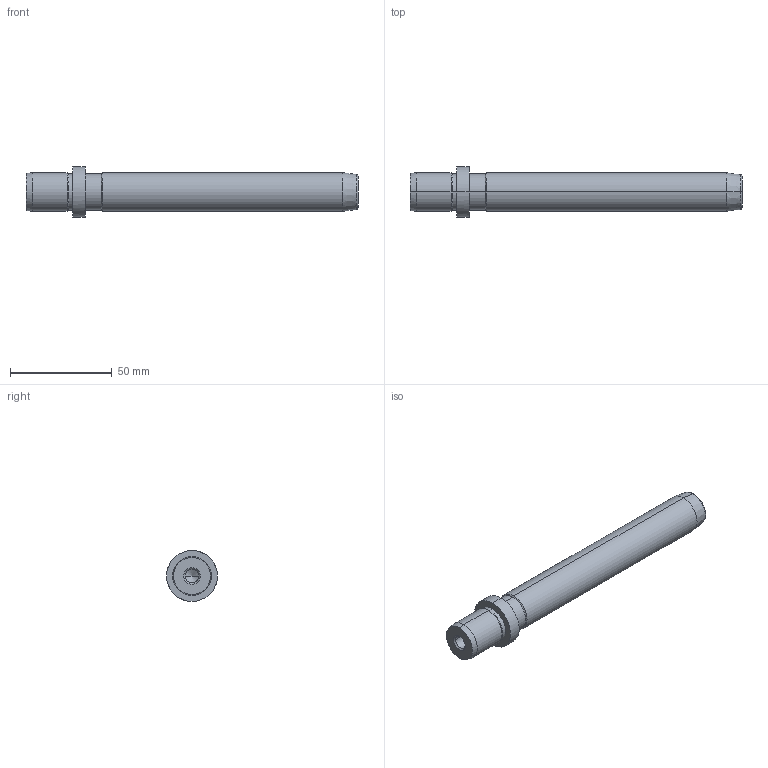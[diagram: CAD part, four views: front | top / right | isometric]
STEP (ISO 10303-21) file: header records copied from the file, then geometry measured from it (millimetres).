
FILE_DESCRIPTION(('CATIA V5 STEP Exchange'),'2;1');
FILE_NAME('C:\Users\Utente\Desktop\IO LAVORO\3D X SITO CF\X SITO\718\718-19x140.stp','2021-01-02T15:41:33+00:00',('none'),('none'),'CATIA Version 5 Release 20 GA (IN-10)','CATIA V5 STEP AP203','none');
FILE_SCHEMA(('CONFIG_CONTROL_DESIGN'));
Length unit declared in the file: millimetre
Products named in the file (1): 718-19x140
Bounding box: 163 x 25 x 25 mm (x, y, z)
Volume: 45156 mm3; surface area: 11742.8 mm2
Topology: 1 solids, 1 shells, 36 faces, 100 edges, 66 vertices
Faces by surface type: cone 16, cylinder 14, plane 4, torus 2
Entity records: 1285 total; most frequent: CARTESIAN_POINT 356, ORIENTED_EDGE 192, DIRECTION 157, EDGE_CURVE 96, AXIS2_PLACEMENT_3D 92, VERTEX_POINT 66, CIRCLE 55, EDGE_LOOP 40
